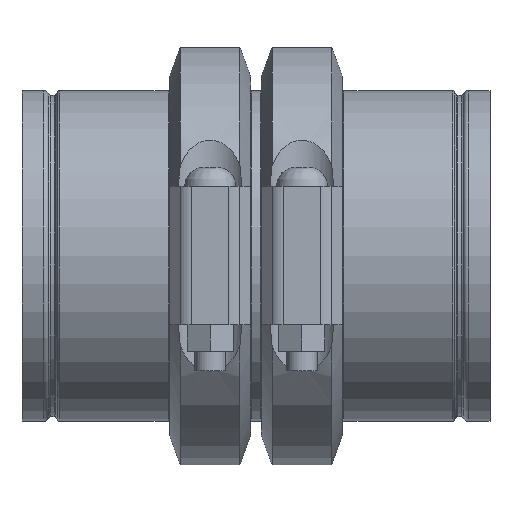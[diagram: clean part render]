
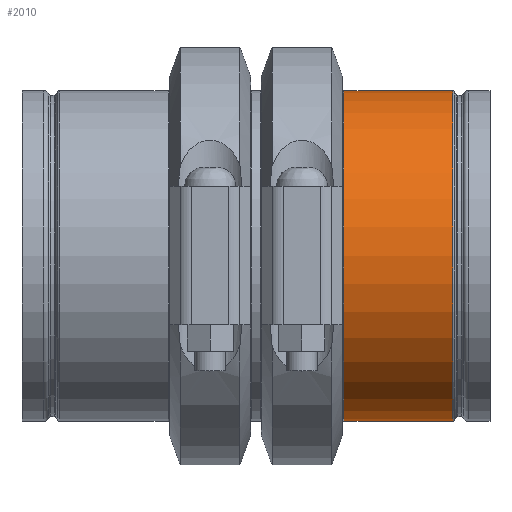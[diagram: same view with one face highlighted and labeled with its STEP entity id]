
A CAD part, top view. The second image highlights one B-rep face of the part: STEP entity #2010.
In plain terms, the highlighted cylindrical face has radius 136.525 mm (diameter 273.05 mm), a full revolution.
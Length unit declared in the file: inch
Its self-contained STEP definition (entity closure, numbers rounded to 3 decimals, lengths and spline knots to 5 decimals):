
#74=LINE('',#3285,#169);
#169=VECTOR('',#2634,5.375);
#264=CYLINDRICAL_SURFACE('',#2268,5.375);
#386=FACE_OUTER_BOUND('',#498,.T.);
#498=EDGE_LOOP('',(#1384,#1385,#1386,#1387,#1388,#1389,#1390,#1391));
#659=CIRCLE('',#2264,5.375);
#660=CIRCLE('',#2265,5.375);
#662=CIRCLE('',#2267,5.375);
#663=CIRCLE('',#2269,5.375);
#664=CIRCLE('',#2270,5.375);
#665=CIRCLE('',#2271,5.375);
#828=VERTEX_POINT('',#3272);
#829=VERTEX_POINT('',#3273);
#830=VERTEX_POINT('',#3275);
#831=VERTEX_POINT('',#3280);
#832=VERTEX_POINT('',#3281);
#833=VERTEX_POINT('',#3283);
#1047=EDGE_CURVE('',#828,#829,#659,.T.);
#1048=EDGE_CURVE('',#829,#830,#660,.T.);
#1050=EDGE_CURVE('',#830,#828,#662,.T.);
#1051=EDGE_CURVE('',#831,#832,#663,.T.);
#1052=EDGE_CURVE('',#833,#831,#664,.T.);
#1053=EDGE_CURVE('',#833,#829,#74,.T.);
#1054=EDGE_CURVE('',#832,#833,#665,.T.);
#1384=ORIENTED_EDGE('',*,*,#1051,.F.);
#1385=ORIENTED_EDGE('',*,*,#1052,.F.);
#1386=ORIENTED_EDGE('',*,*,#1053,.T.);
#1387=ORIENTED_EDGE('',*,*,#1047,.F.);
#1388=ORIENTED_EDGE('',*,*,#1050,.F.);
#1389=ORIENTED_EDGE('',*,*,#1048,.F.);
#1390=ORIENTED_EDGE('',*,*,#1053,.F.);
#1391=ORIENTED_EDGE('',*,*,#1054,.F.);
#2010=ADVANCED_FACE('',(#386),#264,.T.);
#2264=AXIS2_PLACEMENT_3D('',#3274,#2620,#2621);
#2265=AXIS2_PLACEMENT_3D('',#3276,#2622,#2623);
#2267=AXIS2_PLACEMENT_3D('',#3278,#2626,#2627);
#2268=AXIS2_PLACEMENT_3D('',#3279,#2628,#2629);
#2269=AXIS2_PLACEMENT_3D('',#3282,#2630,#2631);
#2270=AXIS2_PLACEMENT_3D('',#3284,#2632,#2633);
#2271=AXIS2_PLACEMENT_3D('',#3286,#2635,#2636);
#2620=DIRECTION('center_axis',(-1.,0.,0.));
#2621=DIRECTION('ref_axis',(0.,-1.,0.));
#2622=DIRECTION('center_axis',(-1.,0.,0.));
#2623=DIRECTION('ref_axis',(0.,-1.,0.));
#2626=DIRECTION('center_axis',(-1.,0.,0.));
#2627=DIRECTION('ref_axis',(0.,-1.,0.));
#2628=DIRECTION('center_axis',(1.,0.,0.));
#2629=DIRECTION('ref_axis',(0.,1.,0.));
#2630=DIRECTION('center_axis',(1.,0.,0.));
#2631=DIRECTION('ref_axis',(0.,-1.,0.));
#2632=DIRECTION('center_axis',(1.,0.,0.));
#2633=DIRECTION('ref_axis',(0.,-1.,0.));
#2634=DIRECTION('',(-1.,0.,0.));
#2635=DIRECTION('center_axis',(1.,0.,0.));
#2636=DIRECTION('ref_axis',(0.,-1.,0.));
#3272=CARTESIAN_POINT('',(1.249,5.375,0.));
#3273=CARTESIAN_POINT('',(1.249,-5.375,0.));
#3274=CARTESIAN_POINT('Origin',(1.249,0.,0.));
#3275=CARTESIAN_POINT('',(1.249,0.,5.375));
#3276=CARTESIAN_POINT('Origin',(1.249,0.,0.));
#3278=CARTESIAN_POINT('Origin',(1.249,0.,0.));
#3279=CARTESIAN_POINT('Origin',(3.01773,0.,0.));
#3280=CARTESIAN_POINT('',(4.78523,5.375,0.));
#3281=CARTESIAN_POINT('',(4.78523,0.,5.375));
#3282=CARTESIAN_POINT('Origin',(4.78523,0.,0.));
#3283=CARTESIAN_POINT('',(4.78523,-5.375,0.));
#3284=CARTESIAN_POINT('Origin',(4.78523,0.,0.));
#3285=CARTESIAN_POINT('',(3.01773,-5.375,0.));
#3286=CARTESIAN_POINT('Origin',(4.78523,0.,0.));
